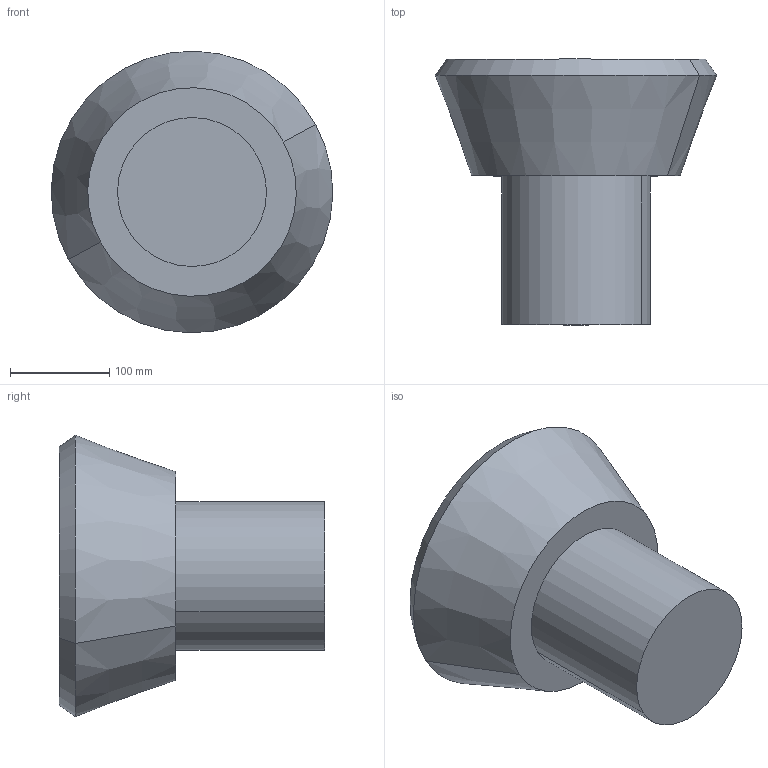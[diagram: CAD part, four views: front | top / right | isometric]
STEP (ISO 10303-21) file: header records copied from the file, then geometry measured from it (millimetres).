
FILE_DESCRIPTION(('CATIA V5 STEP Exchange'),'2;1');
FILE_NAME('C:\_Andres\UNIVERSIDAD\IQS\ASIGNATURAS\DAO\EXF\EXF-15161c\1original\Massaneda_Tuneu_Ej09-optimiza_v15.stp','2016-03-04T21:55:29+00:00',('none'),('none'),'CATIA Version 5 Release 20 SP 1 (IN-10)','CATIA V5 STEP AP203','none');
FILE_SCHEMA(('CONFIG_CONTROL_DESIGN'));
Length unit declared in the file: millimetre
Products named in the file (1): Massaneda_Tuneu_Ej09-optimiza_v15
Bounding box: 283.5 x 267.46 x 283.5 mm (x, y, z)
Volume: 8456037.5 mm3; surface area: 263567.1 mm2
Topology: 1 solids, 2 shells, 13 faces, 22 edges, 14 vertices
Faces by surface type: plane 5, cylinder 4, cone 4
Entity records: 324 total; most frequent: CARTESIAN_POINT 47, ORIENTED_EDGE 44, DIRECTION 42, AXIS2_PLACEMENT_3D 25, EDGE_CURVE 22, CIRCLE 14, EDGE_LOOP 14, VERTEX_POINT 14
